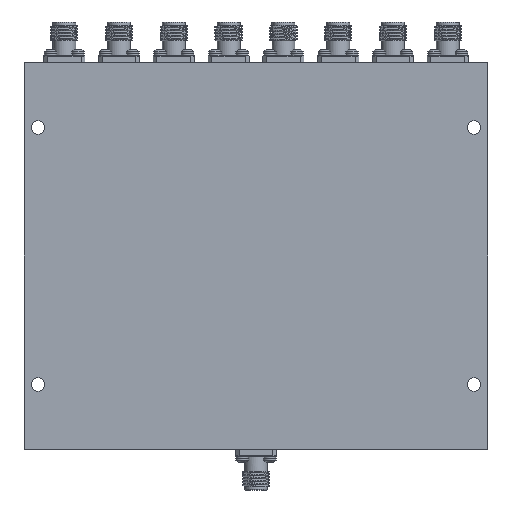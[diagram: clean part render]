
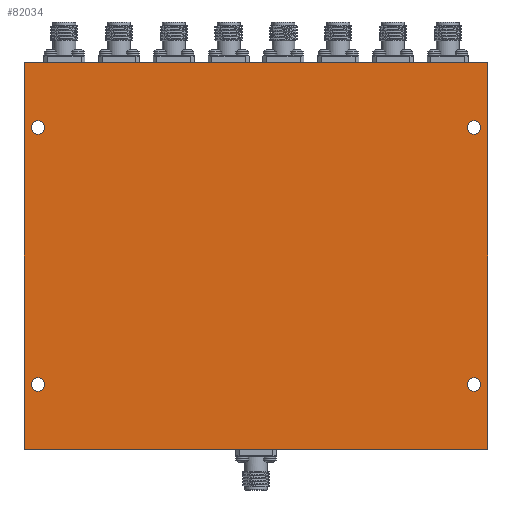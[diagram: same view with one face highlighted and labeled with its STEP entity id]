
A CAD part, front view. The second image highlights one B-rep face of the part: STEP entity #82034.
In plain terms, the highlighted planar face has unit normal (0, -1, 0).
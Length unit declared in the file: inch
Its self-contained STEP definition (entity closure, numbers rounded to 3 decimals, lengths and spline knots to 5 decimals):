
#418 = VERTEX_POINT ( 'NONE', #42645 ) ;
#1407 = LINE ( 'NONE', #34305, #128848 ) ;
#2619 = ORIENTED_EDGE ( 'NONE', *, *, #120412, .F. ) ;
#2987 = VECTOR ( 'NONE', #89558, 39.37008 ) ;
#3579 = CIRCLE ( 'NONE', #49283, 0.0625 ) ;
#4217 = VECTOR ( 'NONE', #93750, 39.37008 ) ;
#5364 = LINE ( 'NONE', #126575, #4217 ) ;
#8795 = ORIENTED_EDGE ( 'NONE', *, *, #81970, .T. ) ;
#11397 = CIRCLE ( 'NONE', #125334, 0.0625 ) ;
#15678 = CARTESIAN_POINT ( 'NONE',  ( 1.99, -0.197, -1.1735 ) ) ;
#18900 = DIRECTION ( 'NONE',  ( 0., 0., 1. ) ) ;
#18995 = LINE ( 'NONE', #51874, #56234 ) ;
#26854 = ORIENTED_EDGE ( 'NONE', *, *, #43319, .T. ) ;
#28313 = CARTESIAN_POINT ( 'NONE',  ( -2.115, -0.197, 1.764 ) ) ;
#30390 = FACE_BOUND ( 'NONE', #84922, .T. ) ;
#34057 = DIRECTION ( 'NONE',  ( 0., 0., 1. ) ) ;
#34214 = EDGE_LOOP ( 'NONE', ( #26854 ) ) ;
#34305 = CARTESIAN_POINT ( 'NONE',  ( 2.115, -0.197, -1.764 ) ) ;
#42645 = CARTESIAN_POINT ( 'NONE',  ( -1.99, -0.197, 1.236 ) ) ;
#43319 = EDGE_CURVE ( 'NONE', #129347, #129347, #11397, .T. ) ;
#44804 = CARTESIAN_POINT ( 'NONE',  ( -1.99, -0.197, 1.1735 ) ) ;
#46295 = CIRCLE ( 'NONE', #100748, 0.0625 ) ;
#46897 = EDGE_CURVE ( 'NONE', #140335, #140781, #18995, .T. ) ;
#49283 = AXIS2_PLACEMENT_3D ( 'NONE', #44804, #131696, #34057 ) ;
#51874 = CARTESIAN_POINT ( 'NONE',  ( -2.115, -0.197, 1.764 ) ) ;
#53741 = DIRECTION ( 'NONE',  ( 0., 1., 0. ) ) ;
#56234 = VECTOR ( 'NONE', #115972, 39.37008 ) ;
#56745 = CARTESIAN_POINT ( 'NONE',  ( 2.115, -0.197, -1.764 ) ) ;
#61422 = DIRECTION ( 'NONE',  ( 0., 1., 0. ) ) ;
#61787 = ORIENTED_EDGE ( 'NONE', *, *, #110058, .T. ) ;
#63115 = FACE_BOUND ( 'NONE', #127014, .T. ) ;
#64526 = DIRECTION ( 'NONE',  ( 0., 1., 0. ) ) ;
#68919 = LINE ( 'NONE', #101725, #2987 ) ;
#69231 = DIRECTION ( 'NONE',  ( 0., 0., 1. ) ) ;
#70282 = VERTEX_POINT ( 'NONE', #84387 ) ;
#73101 = CARTESIAN_POINT ( 'NONE',  ( 0., -0.197, 0. ) ) ;
#73406 = ORIENTED_EDGE ( 'NONE', *, *, #46897, .F. ) ;
#74419 = CARTESIAN_POINT ( 'NONE',  ( -1.99, -0.197, -1.111 ) ) ;
#76847 = AXIS2_PLACEMENT_3D ( 'NONE', #126995, #61422, #104882 ) ;
#78829 = CARTESIAN_POINT ( 'NONE',  ( 1.99, -0.197, 1.236 ) ) ;
#79327 = EDGE_LOOP ( 'NONE', ( #122955 ) ) ;
#80589 = DIRECTION ( 'NONE',  ( 0., 1., 0. ) ) ;
#81970 = EDGE_CURVE ( 'NONE', #418, #418, #3579, .T. ) ;
#82034 = ADVANCED_FACE ( 'NONE', ( #105879, #30390, #85865, #63115, #117937 ), #106541, .F. ) ;
#84387 = CARTESIAN_POINT ( 'NONE',  ( -2.115, -0.197, -1.764 ) ) ;
#84922 = EDGE_LOOP ( 'NONE', ( #61787 ) ) ;
#85865 = FACE_BOUND ( 'NONE', #79327, .T. ) ;
#87136 = DIRECTION ( 'NONE',  ( 0., 0., 1. ) ) ;
#88983 = EDGE_CURVE ( 'NONE', #133081, #133081, #138422, .T. ) ;
#89558 = DIRECTION ( 'NONE',  ( -1., 0., 0. ) ) ;
#90717 = VERTEX_POINT ( 'NONE', #56745 ) ;
#93750 = DIRECTION ( 'NONE',  ( 0., 0., 1. ) ) ;
#95367 = ORIENTED_EDGE ( 'NONE', *, *, #129894, .F. ) ;
#98397 = DIRECTION ( 'NONE',  ( 0., 0., -1. ) ) ;
#100748 = AXIS2_PLACEMENT_3D ( 'NONE', #15678, #80589, #69231 ) ;
#101725 = CARTESIAN_POINT ( 'NONE',  ( -2.115, -0.197, -1.764 ) ) ;
#104882 = DIRECTION ( 'NONE',  ( 0., 0., 1. ) ) ;
#105879 = FACE_BOUND ( 'NONE', #34214, .T. ) ;
#106245 = CARTESIAN_POINT ( 'NONE',  ( 2.115, -0.197, 1.764 ) ) ;
#106541 = PLANE ( 'NONE',  #124397 ) ;
#107811 = CARTESIAN_POINT ( 'NONE',  ( -1.99, -0.197, -1.1735 ) ) ;
#109291 = VERTEX_POINT ( 'NONE', #130803 ) ;
#110058 = EDGE_CURVE ( 'NONE', #109291, #109291, #46295, .T. ) ;
#113494 = EDGE_CURVE ( 'NONE', #140781, #90717, #1407, .T. ) ;
#115972 = DIRECTION ( 'NONE',  ( 1., 0., 0. ) ) ;
#117937 = FACE_OUTER_BOUND ( 'NONE', #127358, .T. ) ;
#120412 = EDGE_CURVE ( 'NONE', #70282, #140335, #5364, .T. ) ;
#122955 = ORIENTED_EDGE ( 'NONE', *, *, #88983, .T. ) ;
#123086 = ORIENTED_EDGE ( 'NONE', *, *, #113494, .F. ) ;
#124397 = AXIS2_PLACEMENT_3D ( 'NONE', #73101, #64526, #18900 ) ;
#125334 = AXIS2_PLACEMENT_3D ( 'NONE', #107811, #53741, #87136 ) ;
#126575 = CARTESIAN_POINT ( 'NONE',  ( -2.115, -0.197, -1.764 ) ) ;
#126995 = CARTESIAN_POINT ( 'NONE',  ( 1.99, -0.197, 1.1735 ) ) ;
#127014 = EDGE_LOOP ( 'NONE', ( #8795 ) ) ;
#127358 = EDGE_LOOP ( 'NONE', ( #2619, #95367, #123086, #73406 ) ) ;
#128848 = VECTOR ( 'NONE', #98397, 39.37008 ) ;
#129347 = VERTEX_POINT ( 'NONE', #74419 ) ;
#129894 = EDGE_CURVE ( 'NONE', #90717, #70282, #68919, .T. ) ;
#130803 = CARTESIAN_POINT ( 'NONE',  ( 1.99, -0.197, -1.111 ) ) ;
#131696 = DIRECTION ( 'NONE',  ( 0., 1., 0. ) ) ;
#133081 = VERTEX_POINT ( 'NONE', #78829 ) ;
#138422 = CIRCLE ( 'NONE', #76847, 0.0625 ) ;
#140335 = VERTEX_POINT ( 'NONE', #28313 ) ;
#140781 = VERTEX_POINT ( 'NONE', #106245 ) ;
